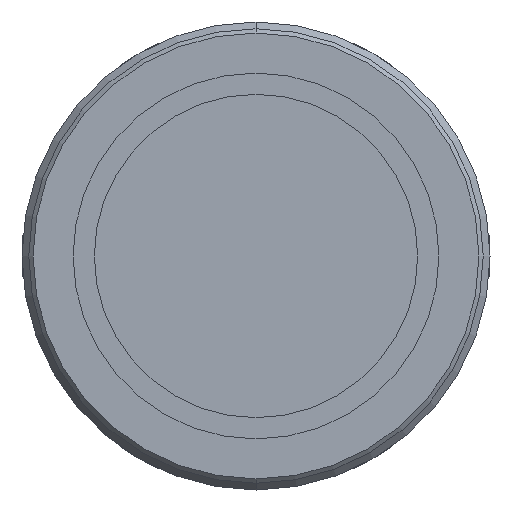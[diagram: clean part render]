
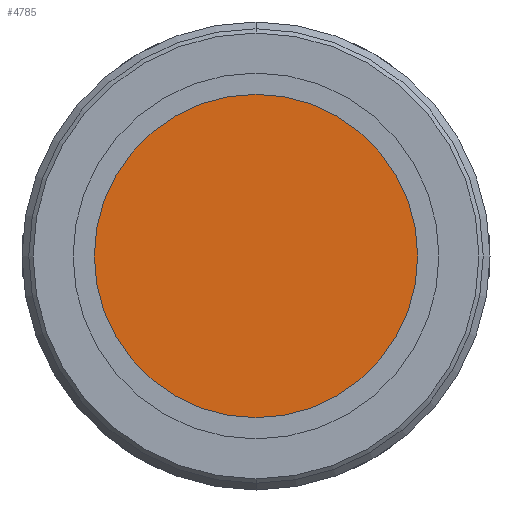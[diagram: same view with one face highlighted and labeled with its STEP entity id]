
A CAD part, front view. The second image highlights one B-rep face of the part: STEP entity #4785.
In plain terms, the highlighted planar face has unit normal (0, -1, 0).
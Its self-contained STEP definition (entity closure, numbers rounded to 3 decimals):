
#764 = DIRECTION ( 'NONE',  ( 0., 0., -1. ) ) ;
#1430 = DIRECTION ( 'NONE',  ( 0., -1., 0. ) ) ;
#2977 = CIRCLE ( 'NONE', #3359, 19. ) ;
#3359 = AXIS2_PLACEMENT_3D ( 'NONE', #12447, #6689, #764 ) ;
#3546 = VERTEX_POINT ( 'NONE', #11663 ) ;
#4270 = EDGE_LOOP ( 'NONE', ( #7131, #4565 ) ) ;
#4368 = PLANE ( 'NONE',  #4763 ) ;
#4565 = ORIENTED_EDGE ( 'NONE', *, *, #6117, .T. ) ;
#4714 = CIRCLE ( 'NONE', #7904, 19. ) ;
#4763 = AXIS2_PLACEMENT_3D ( 'NONE', #11132, #5359, #12095 ) ;
#4785 = ADVANCED_FACE ( 'NONE', ( #11195 ), #4368, .F. ) ;
#5359 = DIRECTION ( 'NONE',  ( 0., 1., 0. ) ) ;
#5398 = VERTEX_POINT ( 'NONE', #8297 ) ;
#6117 = EDGE_CURVE ( 'NONE', #5398, #3546, #2977, .T. ) ;
#6689 = DIRECTION ( 'NONE',  ( 0., -1., 0. ) ) ;
#7131 = ORIENTED_EDGE ( 'NONE', *, *, #9737, .T. ) ;
#7344 = CARTESIAN_POINT ( 'NONE',  ( 0., -53.899, 0. ) ) ;
#7904 = AXIS2_PLACEMENT_3D ( 'NONE', #7344, #1430, #8312 ) ;
#8297 = CARTESIAN_POINT ( 'NONE',  ( 0., -53.899, 19. ) ) ;
#8312 = DIRECTION ( 'NONE',  ( 0., 0., -1. ) ) ;
#9737 = EDGE_CURVE ( 'NONE', #3546, #5398, #4714, .T. ) ;
#11132 = CARTESIAN_POINT ( 'NONE',  ( -19., -53.899, 0. ) ) ;
#11195 = FACE_OUTER_BOUND ( 'NONE', #4270, .T. ) ;
#11663 = CARTESIAN_POINT ( 'NONE',  ( 0., -53.899, -19. ) ) ;
#12095 = DIRECTION ( 'NONE',  ( 0., 0., 1. ) ) ;
#12447 = CARTESIAN_POINT ( 'NONE',  ( 0., -53.899, 0. ) ) ;
